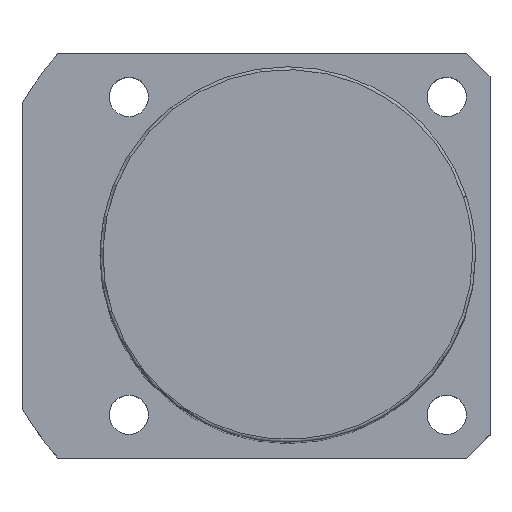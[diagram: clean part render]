
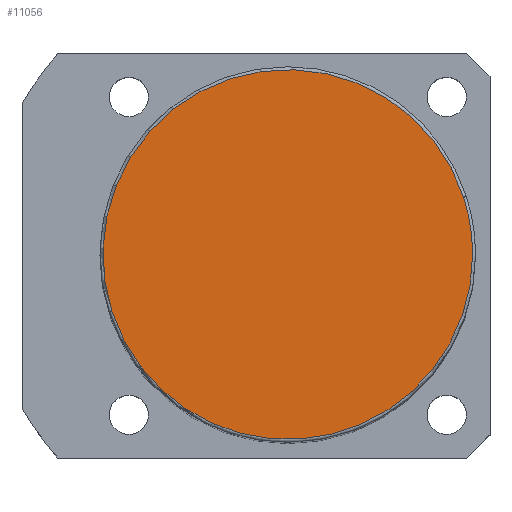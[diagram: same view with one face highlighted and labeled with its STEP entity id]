
A CAD part, top view. The second image highlights one B-rep face of the part: STEP entity #11056.
In plain terms, the highlighted planar face has unit normal (0, 0, 1).
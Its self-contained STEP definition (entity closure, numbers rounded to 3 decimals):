
#10989=CARTESIAN_POINT('',(30.434,9.889,146.0));
#10990=VERTEX_POINT('',#10989);
#11008=CARTESIAN_POINT('',(-30.434,-9.889,146.0));
#11009=VERTEX_POINT('',#11008);
#11017=CARTESIAN_POINT('',(0.0,0.0,146.0));
#11018=DIRECTION('',(0.0,0.0,1.0));
#11019=DIRECTION('',(1.0,0.0,0.0));
#11020=AXIS2_PLACEMENT_3D('',#11017,#11018,#11019);
#11021=CIRCLE('',#11020,32.0);
#11022=EDGE_CURVE('no 4883',#10990,#11009,#11021,.T.);
#11032=CARTESIAN_POINT('',(32.0,0.0,146.0));
#11033=VERTEX_POINT('',#11032);
#11034=CARTESIAN_POINT('',(0.0,0.0,146.0));
#11035=DIRECTION('',(0.0,0.0,1.0));
#11036=DIRECTION('',(1.0,0.0,0.0));
#11037=AXIS2_PLACEMENT_3D('',#11034,#11035,#11036);
#11038=CIRCLE('',#11037,32.0);
#11039=EDGE_CURVE('no 4892',#11033,#10990,#11038,.T.);
#11040=ORIENTED_EDGE('',*,*,#11039,.T.);
#11041=ORIENTED_EDGE('',*,*,#11022,.T.);
#11042=CARTESIAN_POINT('',(0.0,0.0,146.0));
#11043=DIRECTION('',(0.0,0.0,1.0));
#11044=DIRECTION('',(1.0,0.0,0.0));
#11045=AXIS2_PLACEMENT_3D('',#11042,#11043,#11044);
#11046=CIRCLE('',#11045,32.0);
#11047=EDGE_CURVE('no 4898',#11009,#11033,#11046,.T.);
#11048=ORIENTED_EDGE('',*,*,#11047,.T.);
#11049=EDGE_LOOP('',(#11040,#11041,#11048));
#11050=FACE_OUTER_BOUND('',#11049,.T.);
#11051=CARTESIAN_POINT('',(0.0,0.0,146.0));
#11052=DIRECTION('',(0.0,0.0,1.0));
#11053=DIRECTION('',(1.0,0.0,0.0));
#11054=AXIS2_PLACEMENT_3D('',#11051,#11052,#11053);
#11055=PLANE('',#11054);
#11056=ADVANCED_FACE('no 4885',(#11050),#11055,.T.);
